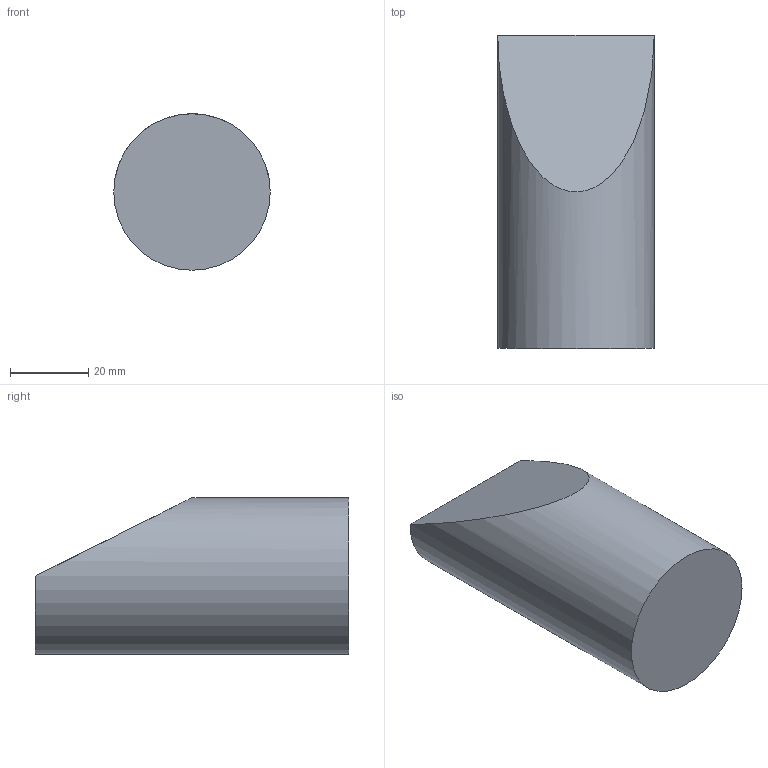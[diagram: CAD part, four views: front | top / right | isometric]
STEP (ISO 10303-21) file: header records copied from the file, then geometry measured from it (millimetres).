
FILE_DESCRIPTION(/* description */ ('','CAx-IF Rec.Pracs.---Representation and Presentation of Product Manufacturing Information (PMI)---4.0---2014-10-13'),/* implementation_level */ '2;1');
FILE_NAME(/* name */ '3.stp',/* time_stamp */ '2026-06-27T16:24:56+01:00',/* author */ ('hunte'),/* organization */ (''),/* preprocessor_version */ 'ST-DEVELOPER v20',/* originating_system */ 'Autodesk Inventor 2024',/* authorisation */ '');
FILE_SCHEMA (('AP242_MANAGED_MODEL_BASED_3D_ENGINEERING_MIM_LF { 1 0 10303 442 1 1 4 }'));
Length unit declared in the file: millimetre
Products named in the file (1): 3
Bounding box: 40 x 80 x 40 mm (x, y, z)
Volume: 89864.3 mm3; surface area: 11743 mm2
Topology: 1 solids, 1 shells, 4 faces, 5 edges, 3 vertices
Faces by surface type: plane 3, cylinder 1
Full cylindrical faces by diameter (mm): 40 x1
Entity records: 215 total; most frequent: DIRECTION 44, CARTESIAN_POINT 30, AXIS2_PLACEMENT_3D 21, ORIENTED_EDGE 10, MAPPED_ITEM 5, REPRESENTATION_MAP 5, DRAUGHTING_MODEL 5, EDGE_CURVE 5
